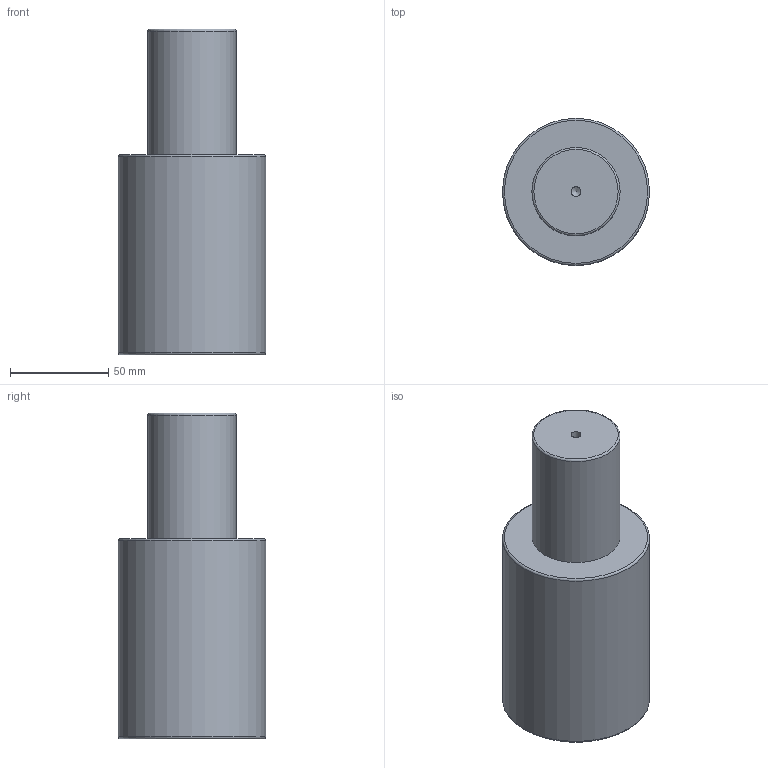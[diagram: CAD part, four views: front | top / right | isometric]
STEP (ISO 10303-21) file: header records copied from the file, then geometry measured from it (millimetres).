
FILE_DESCRIPTION(/* description */ (''),/* implementation_level */ '2;1');
FILE_NAME(/* name */ 'NV5-SMLX.75x63.stp',/* time_stamp */ '2018-08-31T16:08:28+02:00',/* author */ (''),/* organization */ (''),/* preprocessor_version */ 'ST-DEVELOPER v16',/* originating_system */ 'SIEMENS PLM Software NX 10.0',/* authorisation */ '');
FILE_SCHEMA (('AUTOMOTIVE_DESIGN { 1 0 10303 214 3 1 1 1 }'));
Length unit declared in the file: millimetre
Products named in the file (1): NV5-SMLX.75x63
Bounding box: 75 x 75 x 166 mm (x, y, z)
Volume: 550301 mm3; surface area: 42489.5 mm2
Topology: 1 solids, 1 shells, 12 faces, 24 edges, 15 vertices
Faces by surface type: cylinder 4, torus 3, plane 3, cone 2
Full cylindrical faces by diameter (mm): 5 x1, 10.3 x1, 45 x1, 75 x1
Entity records: 266 total; most frequent: DIRECTION 48, CARTESIAN_POINT 37, FACE_BOUND 24, AXIS2_PLACEMENT_3D 24, EDGE_LOOP 22, ORIENTED_EDGE 22, VERTEX_POINT 13, ADVANCED_FACE 12
